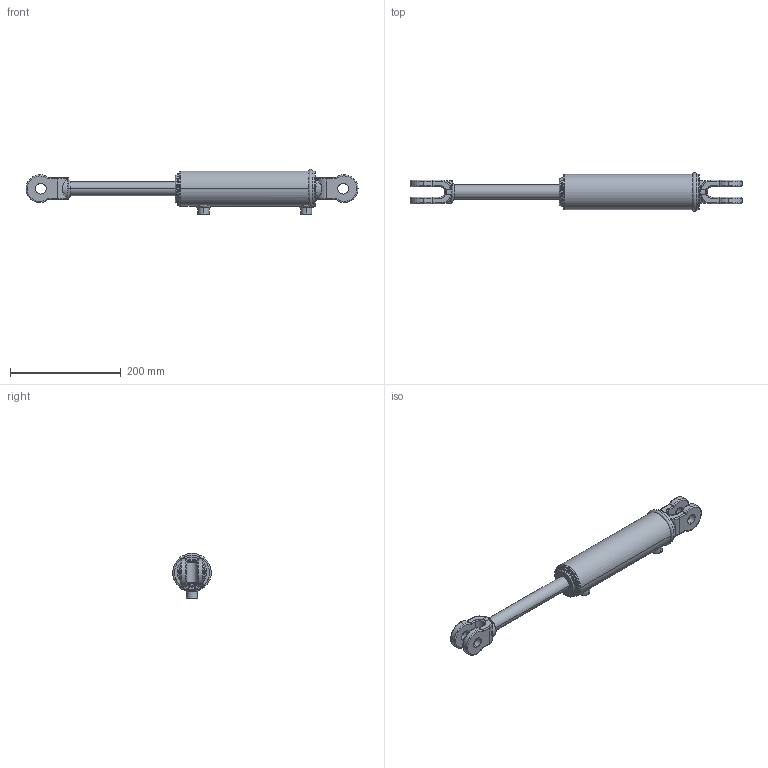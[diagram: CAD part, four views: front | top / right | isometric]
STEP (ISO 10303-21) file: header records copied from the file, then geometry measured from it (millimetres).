
FILE_DESCRIPTION (( 'STEP AP203' ), '1' );
FILE_NAME ('CL-CL200100x152 (6) extended.STEP', '2014-11-20T22:09:21', ( '' ), ( '' ), 'SwSTEP 2.0', 'SolidWorks 2014', '' );
FILE_SCHEMA (( 'CONFIG_CONTROL_DESIGN' ));
Length unit declared in the file: millimetre
Products named in the file (5): CL-CL150075x152 (6) BODY; 2 inch ext circlip; CL-CL200100x152 (6) BODY; 6 SPARE; CL-CL200100x152 (6) extended
Assembly tree (4 placements, depth 3):
  CL-CL200100x152 (6) extended
    CL-CL200100x152 (6) BODY
      CL-CL150075x152 (6) BODY
      2 inch ext circlip
    6 SPARE
Bounding box: 598.41 x 69.5 x 81.5 mm (x, y, z)
Volume: 989218.7 mm3; surface area: 125293.9 mm2
Topology: 3 solids, 3 shells, 284 faces, 701 edges, 419 vertices
Faces by surface type: bspline 117, cylinder 108, plane 37, torus 14, cone 8
Entity records: 24865 total; most frequent: CARTESIAN_POINT 18431, ORIENTED_EDGE 1370, DIRECTION 1046, EDGE_CURVE 685, AXIS2_PLACEMENT_3D 435, VERTEX_POINT 419, EDGE_LOOP 308, FACE_OUTER_BOUND 284
